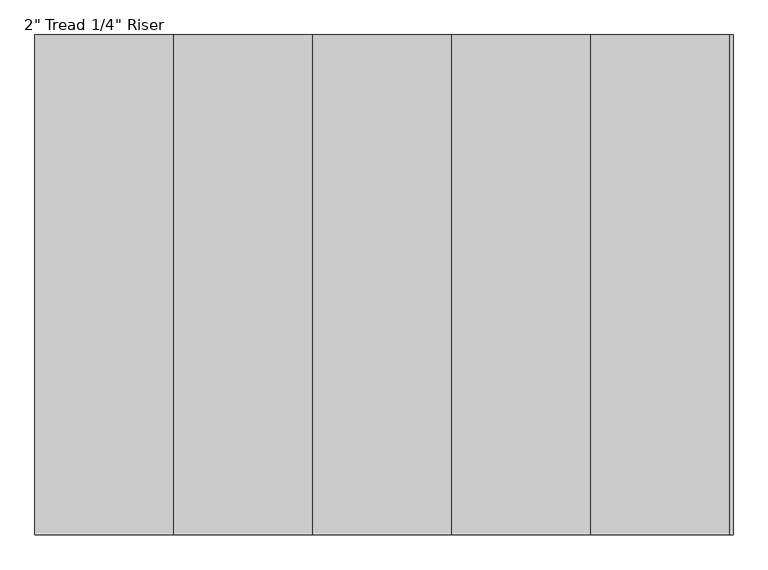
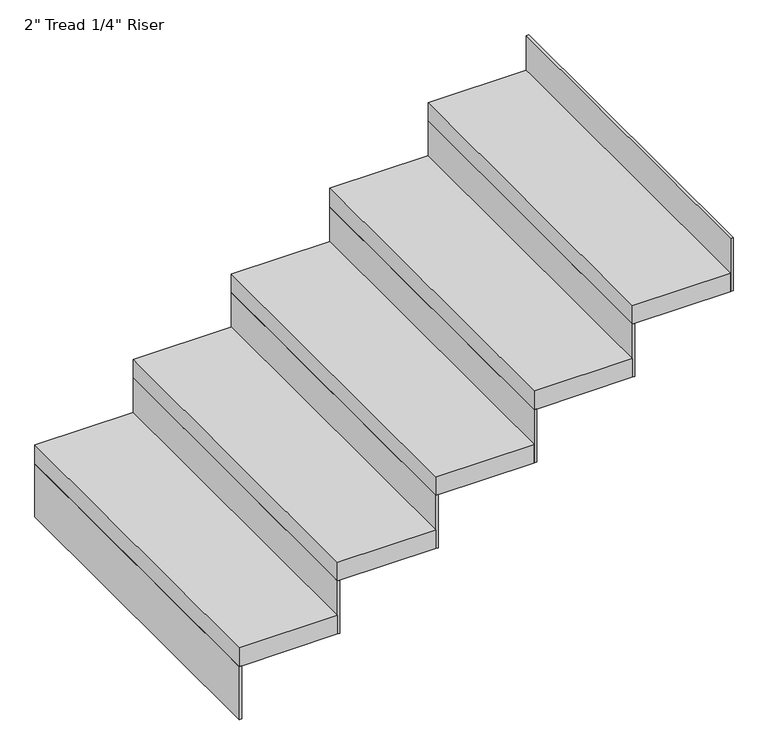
"""IFC4 building model written with IfcOpenShell, lengths in millimetres: stair flight geometry."""

from ifc_helpers import new_model, si_unit, frame, origin, place, context, project, spatial, polyline, outline, extrude, source, transform, mapped, element, save


def stair_flight_6c6cad8c(model_context):
    return source(origin(), model_context, "Body", "SweptSolid", [
        extrude(outline(polyline([(139632.4382982, 15846.0395941), (139626.0882982, 15846.0395941), (139626.0882982, 16760.4395941), (139632.4382982, 16760.4395941), (139632.4382982, 15846.0395941)])), frame((0.0, 0.0, 2126.3428571), z_axis=(0.0, 0.0, 1.0), x_axis=(1.0, 0.0, 0.0)), (0.0, 0.0, 1.0), 145.1428571),
        extrude(outline(polyline([(139880.0882982, 16760.4395941), (139880.0882982, 15846.0395941), (139626.0882982, 15846.0395941), (139626.0882982, 16760.4395941), (139880.0882982, 16760.4395941)])), frame((0.0, 0.0, 2271.4857143), z_axis=(0.0, 0.0, 1.0), x_axis=(1.0, 0.0, 0.0)), (0.0, 0.0, 1.0), 50.8),
        extrude(outline(polyline([(139886.4382982, 15846.0395941), (139880.0882982, 15846.0395941), (139880.0882982, 16760.4395941), (139886.4382982, 16760.4395941), (139886.4382982, 15846.0395941)])), frame((0.0, 0.0, 2271.4857143), z_axis=(0.0, 0.0, 1.0), x_axis=(1.0, 0.0, 0.0)), (0.0, 0.0, 1.0), 145.1428571),
        extrude(outline(polyline([(140134.0882982, 16760.4395941), (140134.0882982, 15846.0395941), (139880.0882982, 15846.0395941), (139880.0882982, 16760.4395941), (140134.0882982, 16760.4395941)])), frame((0.0, 0.0, 2416.6285714), z_axis=(0.0, 0.0, 1.0), x_axis=(1.0, 0.0, 0.0)), (0.0, 0.0, 1.0), 50.8),
        extrude(outline(polyline([(140140.4382982, 15846.0395941), (140134.0882982, 15846.0395941), (140134.0882982, 16760.4395941), (140140.4382982, 16760.4395941), (140140.4382982, 15846.0395941)])), frame((0.0, 0.0, 2416.6285714), z_axis=(0.0, 0.0, 1.0), x_axis=(1.0, 0.0, 0.0)), (0.0, 0.0, 1.0), 145.1428571),
        extrude(outline(polyline([(140388.0882982, 16760.4395941), (140388.0882982, 15846.0395941), (140134.0882982, 15846.0395941), (140134.0882982, 16760.4395941), (140388.0882982, 16760.4395941)])), frame((0.0, 0.0, 2561.7714286), z_axis=(0.0, 0.0, 1.0), x_axis=(1.0, 0.0, 0.0)), (0.0, 0.0, 1.0), 50.8),
        extrude(outline(polyline([(140394.4382982, 15846.0395941), (140388.0882982, 15846.0395941), (140388.0882982, 16760.4395941), (140394.4382982, 16760.4395941), (140394.4382982, 15846.0395941)])), frame((0.0, 0.0, 2561.7714286), z_axis=(0.0, 0.0, 1.0), x_axis=(1.0, 0.0, 0.0)), (0.0, 0.0, 1.0), 145.1428571),
        extrude(outline(polyline([(140642.0882982, 16760.4395941), (140642.0882982, 15846.0395941), (140388.0882982, 15846.0395941), (140388.0882982, 16760.4395941), (140642.0882982, 16760.4395941)])), frame((0.0, 0.0, 2706.9142857), z_axis=(0.0, 0.0, 1.0), x_axis=(1.0, 0.0, 0.0)), (0.0, 0.0, 1.0), 50.8),
        extrude(outline(polyline([(140648.4382982, 15846.0395941), (140642.0882982, 15846.0395941), (140642.0882982, 16760.4395941), (140648.4382982, 16760.4395941), (140648.4382982, 15846.0395941)])), frame((0.0, 0.0, 2706.9142857), z_axis=(0.0, 0.0, 1.0), x_axis=(1.0, 0.0, 0.0)), (0.0, 0.0, 1.0), 145.1428571),
        extrude(outline(polyline([(140902.4382982, 15846.0395941), (140896.0882982, 15846.0395941), (140896.0882982, 16760.4395941), (140902.4382982, 16760.4395941), (140902.4382982, 15846.0395941)])), frame((0.0, 0.0, 2852.0571429), z_axis=(0.0, 0.0, 1.0), x_axis=(1.0, 0.0, 0.0)), (0.0, 0.0, 1.0), 145.1428571),
        extrude(outline(polyline([(140896.0882982, 16760.4395941), (140896.0882982, 15846.0395941), (140642.0882982, 15846.0395941), (140642.0882982, 16760.4395941), (140896.0882982, 16760.4395941)])), frame((0.0, 0.0, 2852.0571429), z_axis=(0.0, 0.0, 1.0), x_axis=(1.0, 0.0, 0.0)), (0.0, 0.0, 1.0), 50.8),
    ])


if __name__ == "__main__":
    model = new_model("IFC4")
    model_context = context("Model", 3, world=origin())
    ifc_project = project(units=[si_unit("LENGTHUNIT", "METRE", prefix="MILLI")], contexts=[model_context])
    site = spatial("IfcSite", under=ifc_project)
    building = spatial("IfcBuilding", under=site)
    placement = place(None, origin())
    stair_flight_shape = stair_flight_6c6cad8c(model_context)
    element("IfcStairFlight", 1, ObjectType="2\" Tread 1/4\" Riser", at=placement, inside=building, context=model_context, shape_type="MappedRepresentation", body=[
        mapped(stair_flight_shape, transform((0.0, 0.0, 0.0), x_axis=(1.0, 0.0, 0.0), y_axis=(0.0, 1.0, 0.0), z_axis=(0.0, 0.0, 1.0))),
    ])
    save(model, "model.ifc")
